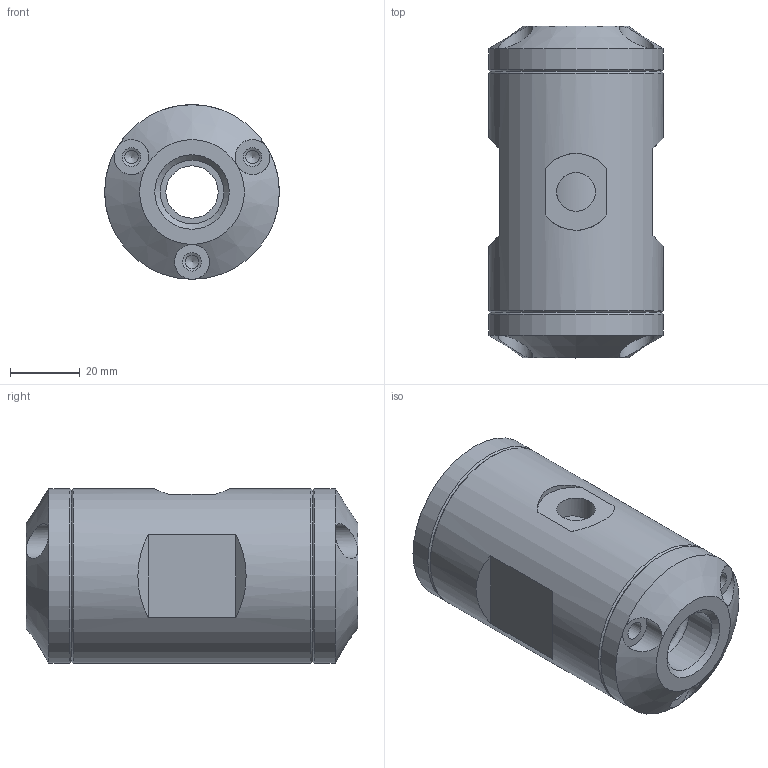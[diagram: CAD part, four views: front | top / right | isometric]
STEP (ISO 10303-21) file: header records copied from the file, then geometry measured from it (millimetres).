
FILE_DESCRIPTION(/* description */ (''),/* implementation_level */ '2;1');
FILE_NAME(/* name */ 'QV15_assembly_VEREINFACHT.stp',/* time_stamp */ '2013-09-23T20:25:28+02:00',/* author */ (''),/* organization */ (''),/* preprocessor_version */ 'ST-DEVELOPER v11',/* originating_system */ 'SIEMENS PLM Software NX 7.5',/* authorisation */ '');
FILE_SCHEMA (('AUTOMOTIVE_DESIGN { 1 0 10303 214 1 1 1 1 }'));
Length unit declared in the file: millimetre
Products named in the file (1): memd82A4l9rz
Bounding box: 50 x 95 x 50 mm (x, y, z)
Volume: 149767.2 mm3; surface area: 33393.2 mm2
Topology: 3 solids, 3 shells, 97 faces, 230 edges, 148 vertices
Faces by surface type: cylinder 36, plane 25, cone 24, torus 12
Full cylindrical faces by diameter (mm): 3.8 x6, 5.3 x12, 10 x6, 11.113 x1, 15 x3, 18.258 x2, 50 x3
Entity records: 2257 total; most frequent: CARTESIAN_POINT 455, DIRECTION 400, ORIENTED_EDGE 232, AXIS2_PLACEMENT_3D 195, EDGE_LOOP 188, FACE_BOUND 179, EDGE_CURVE 116, VERTEX_POINT 104
